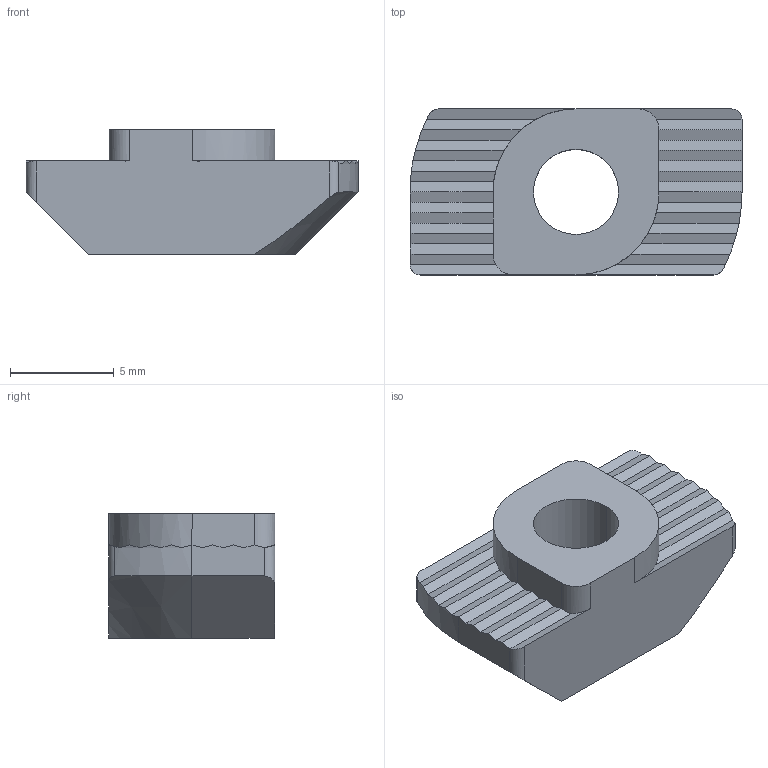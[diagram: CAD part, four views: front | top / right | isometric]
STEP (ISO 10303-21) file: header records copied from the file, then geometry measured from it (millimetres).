
FILE_DESCRIPTION (( 'STEP AP214' ), '1' );
FILE_NAME ('096h08515.STEP', '2012-02-21T13:53:22', ( 'de01pc046' ), ( 'Fath GmbH' ), 'SwSTEP 2.0', 'SolidWorks 2011', '' );
FILE_SCHEMA (( 'AUTOMOTIVE_DESIGN' ));
Length unit declared in the file: millimetre
Products named in the file (1): 096h08515
Bounding box: 16 x 8 x 6 mm (x, y, z)
Volume: 489.7 mm3; surface area: 504.4 mm2
Topology: 1 solids, 1 shells, 56 faces, 152 edges, 98 vertices
Faces by surface type: plane 42, cylinder 12, cone 2
Entity records: 1800 total; most frequent: CARTESIAN_POINT 453, ORIENTED_EDGE 304, DIRECTION 232, EDGE_CURVE 152, VERTEX_POINT 98, VECTOR 94, LINE 94, AXIS2_PLACEMENT_3D 69
